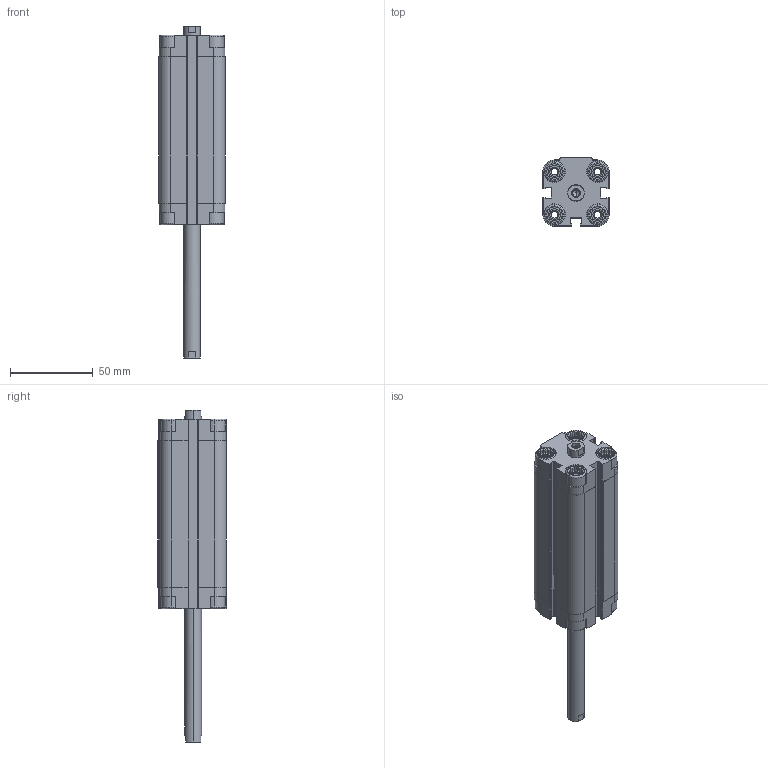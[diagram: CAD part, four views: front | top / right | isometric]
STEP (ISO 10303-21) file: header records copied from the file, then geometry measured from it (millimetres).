
FILE_DESCRIPTION (( 'STEP AP203' ), '1' );
FILE_NAME ('CDVU25-75F-P.STEP', '2020-07-24T18:10:23', ( '' ), ( '' ), 'SwSTEP 2.0', 'SolidWorks 2019', '' );
FILE_SCHEMA (( 'CONFIG_CONTROL_DESIGN' ));
Length unit declared in the file: millimetre
Products named in the file (1): CDVU25-75F-P
Bounding box: 40 x 41.5 x 200.5 mm (x, y, z)
Volume: 124814 mm3; surface area: 53454.2 mm2
Topology: 2 solids, 2 shells, 596 faces, 1574 edges, 1016 vertices
Faces by surface type: plane 356, cylinder 176, cone 48, torus 16
Entity records: 18577 total; most frequent: CARTESIAN_POINT 3755, ORIENTED_EDGE 3132, DIRECTION 3000, EDGE_CURVE 1566, AXIS2_PLACEMENT_3D 1029, VERTEX_POINT 1016, VECTOR 942, LINE 942
